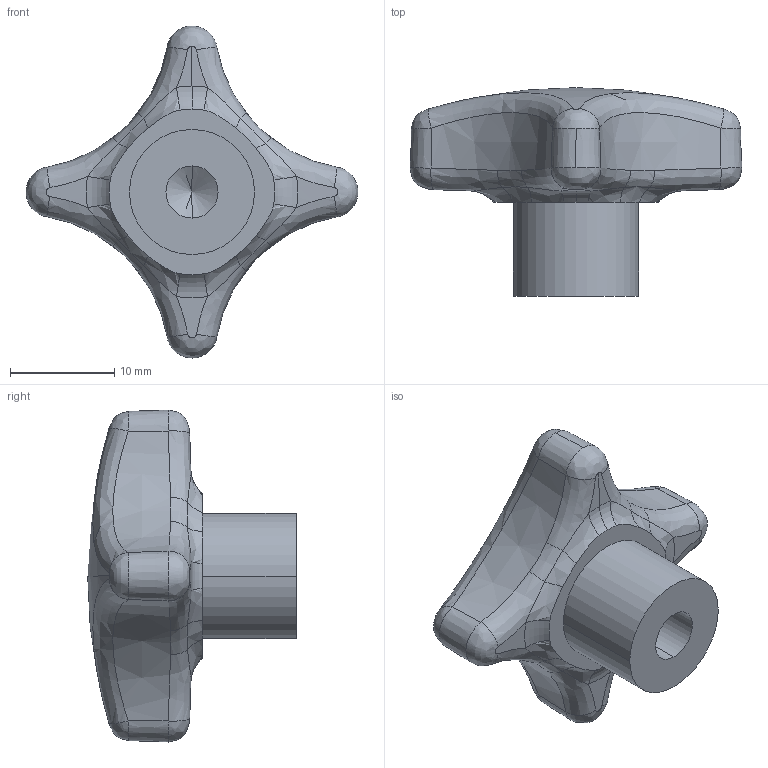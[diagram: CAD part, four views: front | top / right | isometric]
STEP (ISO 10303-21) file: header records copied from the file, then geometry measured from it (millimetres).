
FILE_DESCRIPTION (( 'STEP AP214' ), '1' );
FILE_NAME ('6335.2-32-M6-E-NI.step', '2022-11-14T08:41:17', ( '' ), ( '' ), 'SwSTEP 2.0', 'SolidWorks 2022', '' );
FILE_SCHEMA (( 'AUTOMOTIVE_DESIGN' ));
Length unit declared in the file: millimetre
Products named in the file (1): 6335.2-32-M6-E-NI
Bounding box: 31.84 x 20 x 31.84 mm (x, y, z)
Volume: 4572.4 mm3; surface area: 2102.6 mm2
Topology: 1 solids, 1 shells, 66 faces, 155 edges, 91 vertices
Faces by surface type: bspline 36, cone 17, torus 5, cylinder 4, sphere 2, plane 2
Entity records: 4053 total; most frequent: CARTESIAN_POINT 2682, ORIENTED_EDGE 306, DIRECTION 201, EDGE_CURVE 153, AXIS2_PLACEMENT_3D 92, VERTEX_POINT 91, B_SPLINE_CURVE_WITH_KNOTS 75, EDGE_LOOP 68
